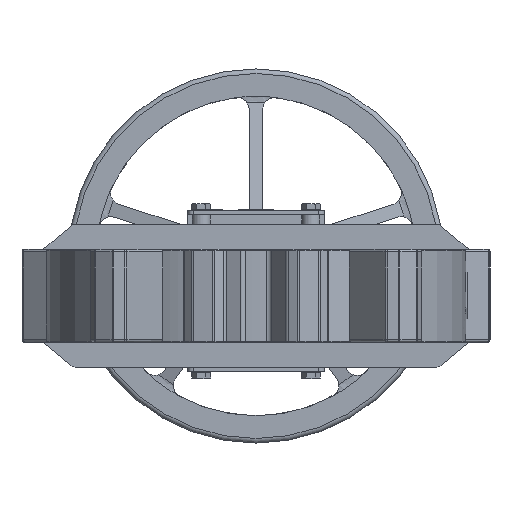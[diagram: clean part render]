
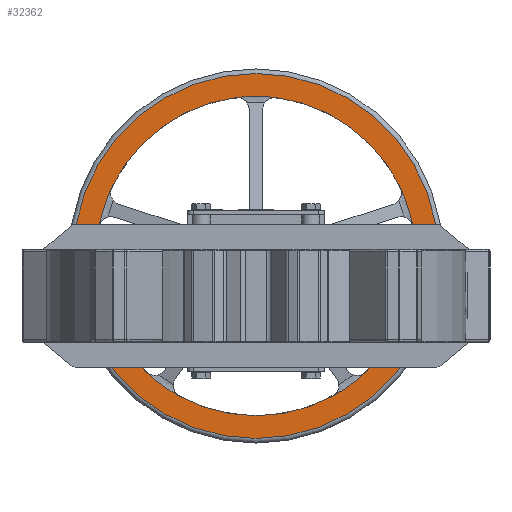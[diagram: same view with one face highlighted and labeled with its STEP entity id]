
A CAD part, front view. The second image highlights one B-rep face of the part: STEP entity #32362.
In plain terms, the highlighted planar face has unit normal (0, -1, 0).
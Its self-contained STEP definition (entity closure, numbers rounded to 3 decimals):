
#28052=CARTESIAN_POINT('',(-171.997,996.0,75.78));
#28053=VERTEX_POINT('',#28052);
#28677=CARTESIAN_POINT('',(-83.85,996.0,-110.104));
#28678=VERTEX_POINT('',#28677);
#29302=CARTESIAN_POINT('',(120.175,996.,-83.713));
#29303=VERTEX_POINT('',#29302);
#29927=CARTESIAN_POINT('',(158.122,996.,118.482));
#29928=VERTEX_POINT('',#29927);
#30397=CARTESIAN_POINT('',(-158.122,996.0,118.482));
#30398=VERTEX_POINT('',#30397);
#30418=CARTESIAN_POINT('',(0.,996.,43.5));
#30419=DIRECTION('',(0.0,1.0,0.0));
#30420=DIRECTION('',(1.0,0.0,0.0));
#30421=AXIS2_PLACEMENT_3D('',#30418,#30419,#30420);
#30422=CIRCLE('',#30421,175.0);
#30423=EDGE_CURVE('',#28053,#30398,#30422,.T.);
#30556=CARTESIAN_POINT('',(-120.175,996.0,-83.713));
#30557=VERTEX_POINT('',#30556);
#30577=CARTESIAN_POINT('',(0.,996.,43.5));
#30578=DIRECTION('',(0.0,1.0,0.0));
#30579=DIRECTION('',(1.0,0.0,0.0));
#30580=AXIS2_PLACEMENT_3D('',#30577,#30578,#30579);
#30581=CIRCLE('',#30580,175.0);
#30582=EDGE_CURVE('',#28678,#30557,#30581,.T.);
#30715=CARTESIAN_POINT('',(83.85,996.,-110.104));
#30716=VERTEX_POINT('',#30715);
#30736=CARTESIAN_POINT('',(0.,996.,43.5));
#30737=DIRECTION('',(0.0,1.0,0.0));
#30738=DIRECTION('',(1.0,0.0,0.0));
#30739=AXIS2_PLACEMENT_3D('',#30736,#30737,#30738);
#30740=CIRCLE('',#30739,175.0);
#30741=EDGE_CURVE('',#29303,#30716,#30740,.T.);
#30907=CARTESIAN_POINT('',(171.997,996.,75.78));
#30908=VERTEX_POINT('',#30907);
#30928=CARTESIAN_POINT('',(0.,996.,43.5));
#30929=DIRECTION('',(0.0,1.0,0.0));
#30930=DIRECTION('',(1.0,0.0,0.0));
#30931=AXIS2_PLACEMENT_3D('',#30928,#30929,#30930);
#30932=CIRCLE('',#30931,175.0);
#30933=EDGE_CURVE('',#29928,#30908,#30932,.T.);
#30946=CARTESIAN_POINT('',(0.,996.,43.5));
#30947=DIRECTION('',(0.0,1.0,0.0));
#30948=DIRECTION('',(1.0,0.0,0.0));
#30949=AXIS2_PLACEMENT_3D('',#30946,#30947,#30948);
#30950=CIRCLE('',#30949,175.0);
#30951=EDGE_CURVE('',#30557,#28053,#30950,.T.);
#30956=CARTESIAN_POINT('',(0.,996.,43.5));
#30957=DIRECTION('',(0.0,1.0,0.0));
#30958=DIRECTION('',(1.0,0.0,0.0));
#30959=AXIS2_PLACEMENT_3D('',#30956,#30957,#30958);
#30960=CIRCLE('',#30959,175.0);
#30961=EDGE_CURVE('',#30716,#28678,#30960,.T.);
#30966=CARTESIAN_POINT('',(0.,996.,43.5));
#30967=DIRECTION('',(0.0,1.0,0.0));
#30968=DIRECTION('',(1.0,0.0,0.0));
#30969=AXIS2_PLACEMENT_3D('',#30966,#30967,#30968);
#30970=CIRCLE('',#30969,175.0);
#30971=EDGE_CURVE('',#30908,#29303,#30970,.T.);
#30981=CARTESIAN_POINT('',(22.45,996.,217.054));
#30982=VERTEX_POINT('',#30981);
#30983=CARTESIAN_POINT('',(0.,996.,43.5));
#30984=DIRECTION('',(0.0,1.0,0.0));
#30985=DIRECTION('',(1.0,0.0,0.0));
#30986=AXIS2_PLACEMENT_3D('',#30983,#30984,#30985);
#30987=CIRCLE('',#30986,175.0);
#30988=EDGE_CURVE('',#30982,#29928,#30987,.T.);
#31007=CARTESIAN_POINT('',(-22.45,996.,217.054));
#31008=VERTEX_POINT('',#31007);
#31015=CARTESIAN_POINT('',(0.,996.,43.5));
#31016=DIRECTION('',(0.0,1.0,0.0));
#31017=DIRECTION('',(1.0,0.0,0.0));
#31018=AXIS2_PLACEMENT_3D('',#31015,#31016,#31017);
#31019=CIRCLE('',#31018,175.0);
#31020=EDGE_CURVE('',#30398,#31008,#31019,.T.);
#32304=CARTESIAN_POINT('',(-200.,996.0,43.5));
#32305=VERTEX_POINT('',#32304);
#32306=CARTESIAN_POINT('',(0.,996.,43.5));
#32307=DIRECTION('',(0.0,1.0,0.0));
#32308=DIRECTION('',(1.0,0.0,0.0));
#32309=AXIS2_PLACEMENT_3D('',#32306,#32307,#32308);
#32310=CIRCLE('',#32309,200.0);
#32311=EDGE_CURVE('',#32305,#32305,#32310,.T.);
#32336=CARTESIAN_POINT('',(0.,996.,43.5));
#32337=DIRECTION('',(0.0,1.0,0.0));
#32338=DIRECTION('',(-1.0,0.0,0.0));
#32339=AXIS2_PLACEMENT_3D('',#32336,#32337,#32338);
#32340=PLANE('',#32339);
#32341=ORIENTED_EDGE('',*,*,#32311,.F.);
#32342=EDGE_LOOP('',(#32341));
#32343=FACE_OUTER_BOUND('',#32342,.T.);
#32344=ORIENTED_EDGE('',*,*,#30988,.T.);
#32345=ORIENTED_EDGE('',*,*,#30933,.T.);
#32346=ORIENTED_EDGE('',*,*,#30971,.T.);
#32347=ORIENTED_EDGE('',*,*,#30741,.T.);
#32348=ORIENTED_EDGE('',*,*,#30961,.T.);
#32349=ORIENTED_EDGE('',*,*,#30582,.T.);
#32350=ORIENTED_EDGE('',*,*,#30951,.T.);
#32351=ORIENTED_EDGE('',*,*,#30423,.T.);
#32352=ORIENTED_EDGE('',*,*,#31020,.T.);
#32353=CARTESIAN_POINT('',(0.,996.,43.5));
#32354=DIRECTION('',(0.0,1.0,0.0));
#32355=DIRECTION('',(1.0,0.0,0.0));
#32356=AXIS2_PLACEMENT_3D('',#32353,#32354,#32355);
#32357=CIRCLE('',#32356,175.0);
#32358=EDGE_CURVE('',#31008,#30982,#32357,.T.);
#32359=ORIENTED_EDGE('',*,*,#32358,.T.);
#32360=EDGE_LOOP('',(#32344,#32345,#32346,#32347,#32348,#32349,#32350,#32351,#32352,#32359));
#32361=FACE_BOUND('',#32360,.T.);
#32362=ADVANCED_FACE('',(#32343,#32361),#32340,.F.);
